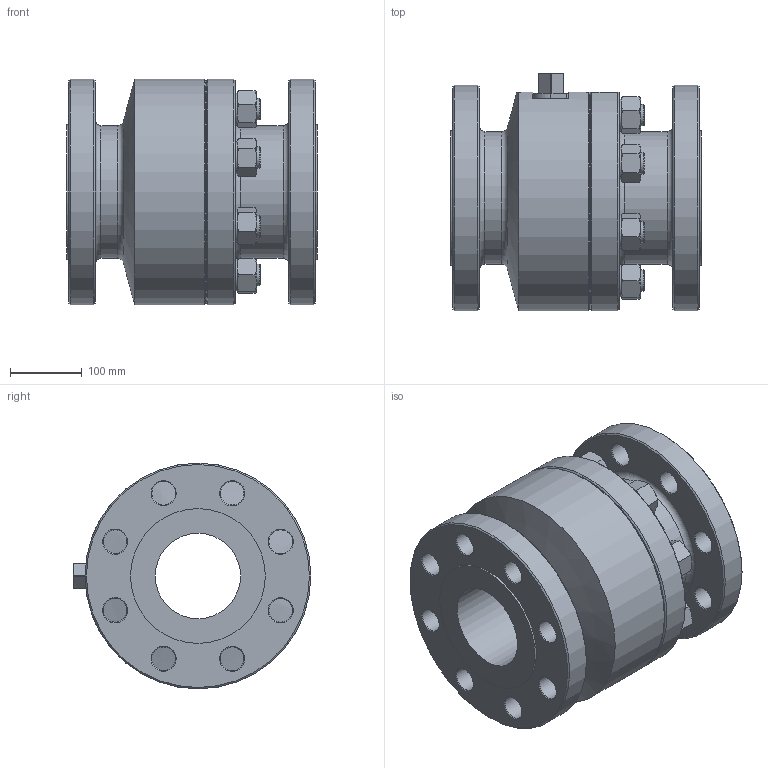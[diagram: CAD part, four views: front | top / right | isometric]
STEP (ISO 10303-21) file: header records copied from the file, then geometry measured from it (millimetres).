
FILE_DESCRIPTION((''),'2;1');
FILE_NAME('C:\Users\Bartek\Desktop\Nowy folder (2)\Nowy folder (22)\WK5b\WK5b DN125 PN100_Substitute_1.stp','2024-09-18T09:13:01',('Bartek'),(''),'Autodesk Inventor 2012','Autodesk Inventor 2012','');
FILE_SCHEMA(('AUTOMOTIVE_DESIGN { 1 0 10303 214 1 1 1 1 }'));
Length unit declared in the file: millimetre
Products named in the file (1): WK5b DN125 PN100_Substitute_1
Bounding box: 350 x 331.5 x 315 mm (x, y, z)
Volume: 16647359.3 mm3; surface area: 901313 mm2
Topology: 1 solids, 1 shells, 294 faces, 659 edges, 399 vertices
Faces by surface type: cone 144, plane 96, cylinder 50, torus 4
Full cylindrical faces by diameter (mm): 30 x8, 33 x16, 45 x8, 119 x1, 185 x2, 188 x2, 210 x1, 315 x2
Entity records: 7619 total; most frequent: CARTESIAN_POINT 1612, DIRECTION 1187, ORIENTED_EDGE 1090, AXIS2_PLACEMENT_3D 546, EDGE_CURVE 545, EDGE_LOOP 449, VERTEX_POINT 374, STYLED_ITEM 295
